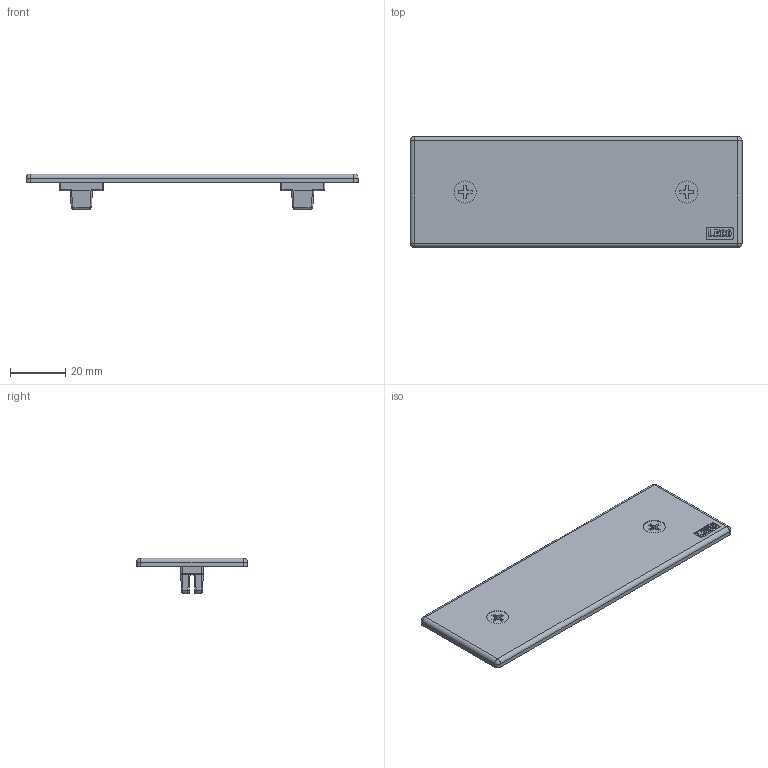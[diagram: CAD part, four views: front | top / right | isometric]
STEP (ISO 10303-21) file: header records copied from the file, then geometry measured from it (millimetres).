
FILE_DESCRIPTION(('STEP AP214'),'1');
FILE_NAME('E412.stp','2017-07-24T04:40:30',(' '),(' '),'Spatial InterOp 3D',' ',' ');
FILE_SCHEMA(('automotive_design'));
Length unit declared in the file: millimetre
Products named in the file (1): E412
Bounding box: 120 x 40 x 13 mm (x, y, z)
Volume: 14445 mm3; surface area: 11627.2 mm2
Topology: 1 solids, 1 shells, 273 faces, 702 edges, 424 vertices
Faces by surface type: plane 123, cylinder 114, bspline 24, sphere 12
Full cylindrical faces by diameter (mm): 8 x2
Entity records: 12498 total; most frequent: CARTESIAN_POINT 3746, DIRECTION 1400, ORIENTED_EDGE 1360, EDGE_CURVE 680, AXIS2_PLACEMENT_3D 494, VERTEX_POINT 424, LINE 412, VECTOR 412
